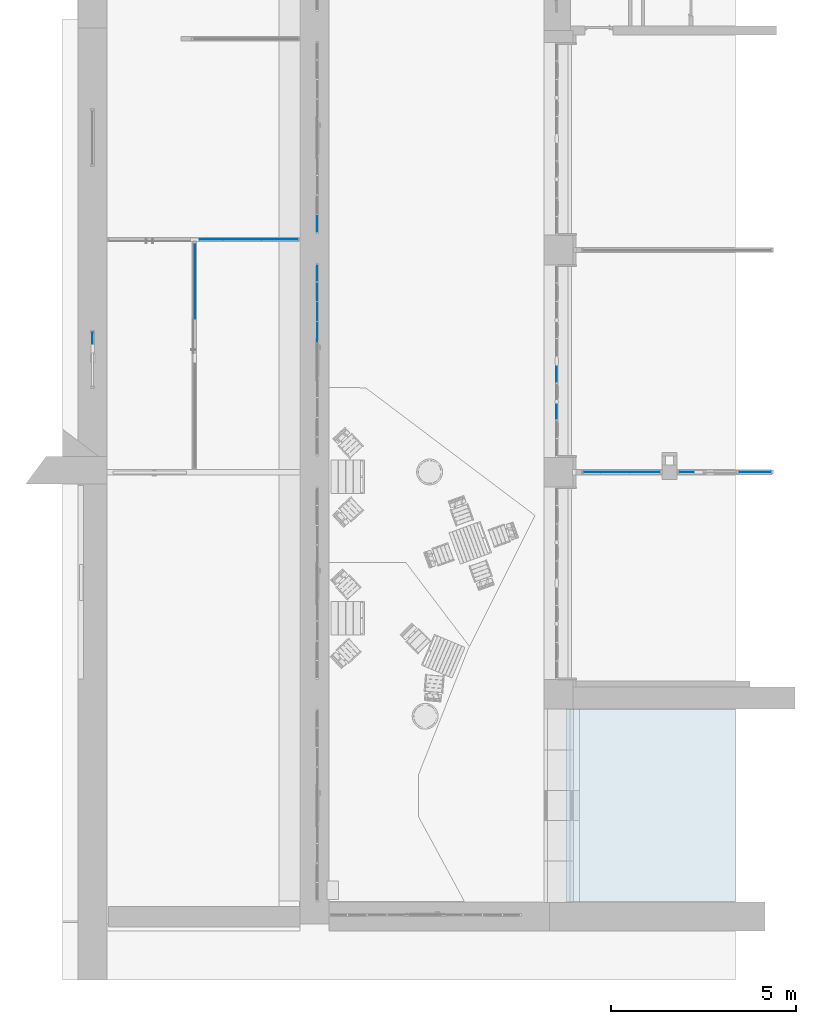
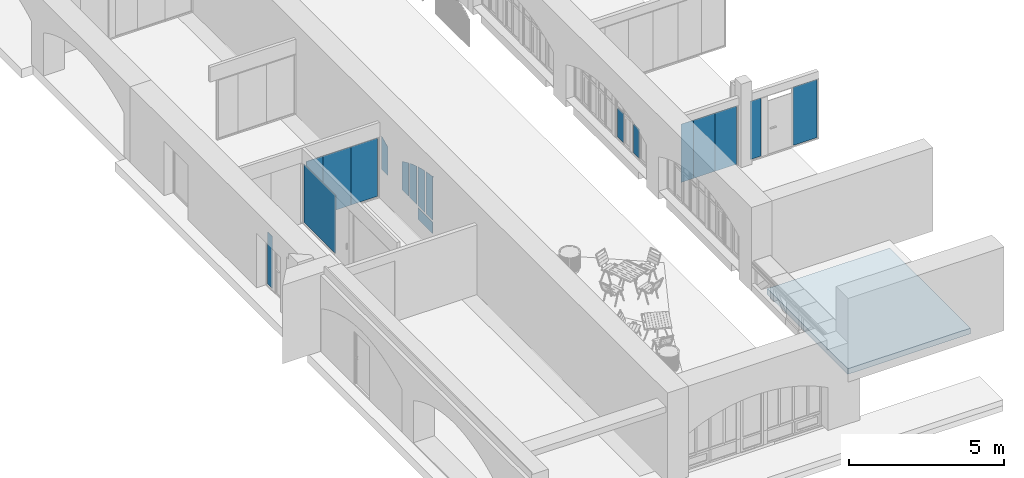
# One storey, part 53 of 88: 18 plates, 1 slab, 9 elements without a shape of their own.
"""IFC2X3 building model written with IfcOpenShell, lengths in millimetres."""

from ifc_helpers import new_model, entity, si_unit, converted_unit, derived_unit, direction, frame, frame_2d, origin, origin_2d_with_axis, place, context, subcontext, project, spatial, polyline, circle_curve, parameter, trimmed, segment, composite_curve, rectangle, outline, extrude, face_set, surface_model, source, transform, mapped, material, layer, layer_set, type_object, type_shapes, element, aggregate, save


model = new_model("IFC2X3")

# Units and contexts
model_context = context("Model", 3, precision=0.01, world=origin(), true_north=direction((6.123031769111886e-17, 1.0)))
body_context = subcontext(model_context, "Body", "Model", "MODEL_VIEW")
ifc_project = project(units=[si_unit("LENGTHUNIT", "METRE", prefix="MILLI"), si_unit("AREAUNIT", "SQUARE_METRE"), si_unit("VOLUMEUNIT", "CUBIC_METRE"), converted_unit("PLANEANGLEUNIT", "DEGREE", entity("IfcPlaneAngleMeasure", 0.017453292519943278), si_unit("PLANEANGLEUNIT", "RADIAN"), dimensions=[0, 0, 0, 0, 0, 0, 0]), si_unit("MASSUNIT", "GRAM", prefix="KILO"), derived_unit("MASSDENSITYUNIT", [(si_unit("MASSUNIT", "GRAM", prefix="KILO"), 1), (si_unit("LENGTHUNIT", "METRE"), -3)]), derived_unit("IONCONCENTRATIONUNIT", [(si_unit("MASSUNIT", "GRAM", prefix="KILO"), 1), (si_unit("LENGTHUNIT", "METRE"), -3)]), derived_unit("MOMENTOFINERTIAUNIT", [(si_unit("LENGTHUNIT", "METRE"), 4)]), si_unit("TIMEUNIT", "SECOND"), si_unit("FREQUENCYUNIT", "HERTZ"), si_unit("THERMODYNAMICTEMPERATUREUNIT", "DEGREE_CELSIUS"), derived_unit("THERMALTRANSMITTANCEUNIT", [(si_unit("MASSUNIT", "GRAM", prefix="KILO"), 1), (si_unit("THERMODYNAMICTEMPERATUREUNIT", "KELVIN"), -1), (si_unit("TIMEUNIT", "SECOND"), -3)]), derived_unit("THERMALCONDUCTANCEUNIT", [(si_unit("MASSUNIT", "GRAM", prefix="KILO"), 1), (si_unit("THERMODYNAMICTEMPERATUREUNIT", "KELVIN"), -1), (si_unit("TIMEUNIT", "SECOND"), -3), (si_unit("LENGTHUNIT", "METRE"), 1)]), derived_unit("VOLUMETRICFLOWRATEUNIT", [(si_unit("LENGTHUNIT", "METRE", prefix="DECI"), 3), (si_unit("TIMEUNIT", "SECOND"), -1)]), derived_unit("MASSFLOWRATEUNIT", [(si_unit("MASSUNIT", "GRAM", prefix="KILO"), 1), (si_unit("TIMEUNIT", "SECOND"), -1)]), derived_unit("ROTATIONALFREQUENCYUNIT", [(si_unit("TIMEUNIT", "SECOND"), -1)]), si_unit("ELECTRICCURRENTUNIT", "AMPERE"), si_unit("ELECTRICVOLTAGEUNIT", "VOLT"), si_unit("POWERUNIT", "WATT"), si_unit("FORCEUNIT", "NEWTON", prefix="KILO"), si_unit("ILLUMINANCEUNIT", "LUX"), si_unit("LUMINOUSFLUXUNIT", "LUMEN"), si_unit("LUMINOUSINTENSITYUNIT", "CANDELA"), si_unit("ENERGYUNIT", "JOULE"), derived_unit("USERDEFINED", [(si_unit("MASSUNIT", "GRAM", prefix="KILO"), -1), (si_unit("LENGTHUNIT", "METRE"), -2), (si_unit("TIMEUNIT", "SECOND"), 3), (si_unit("LUMINOUSFLUXUNIT", "LUMEN"), 1)]), derived_unit("USERDEFINED", [(si_unit("MASSUNIT", "GRAM", prefix="KILO"), 1), (si_unit("TIMEUNIT", "SECOND"), -3), (si_unit("LENGTHUNIT", "METRE"), 3), (si_unit("ELECTRICCURRENTUNIT", "AMPERE"), -2)]), derived_unit("SOUNDPOWERUNIT", [(si_unit("MASSUNIT", "GRAM", prefix="KILO"), 1), (si_unit("TIMEUNIT", "SECOND"), -3), (si_unit("LENGTHUNIT", "METRE"), 2)]), derived_unit("SOUNDPRESSUREUNIT", [(si_unit("MASSUNIT", "GRAM", prefix="KILO"), 1), (si_unit("LENGTHUNIT", "METRE"), -1), (si_unit("TIMEUNIT", "SECOND"), -2)]), derived_unit("LINEARVELOCITYUNIT", [(si_unit("LENGTHUNIT", "METRE"), 1), (si_unit("TIMEUNIT", "SECOND"), -1)]), si_unit("PRESSUREUNIT", "PASCAL"), derived_unit("USERDEFINED", [(si_unit("MASSUNIT", "GRAM", prefix="KILO"), 1), (si_unit("LENGTHUNIT", "METRE"), -2), (si_unit("TIMEUNIT", "SECOND"), -2)]), derived_unit("LINEARFORCEUNIT", [(si_unit("MASSUNIT", "GRAM", prefix="KILO"), 1), (si_unit("TIMEUNIT", "SECOND"), -2)]), derived_unit("PLANARFORCEUNIT", [(si_unit("MASSUNIT", "GRAM", prefix="KILO"), 1), (si_unit("LENGTHUNIT", "METRE"), -1), (si_unit("TIMEUNIT", "SECOND"), -2)]), derived_unit("SPECIFICHEATCAPACITYUNIT", [(si_unit("THERMODYNAMICTEMPERATUREUNIT", "KELVIN"), -1), (si_unit("LENGTHUNIT", "METRE"), 2), (si_unit("TIMEUNIT", "SECOND"), -2)]), derived_unit("HEATFLUXDENSITYUNIT", [(si_unit("MASSUNIT", "GRAM", prefix="KILO"), 1), (si_unit("TIMEUNIT", "SECOND"), -3)]), derived_unit("HEATINGVALUEUNIT", [(si_unit("LENGTHUNIT", "METRE"), 2), (si_unit("TIMEUNIT", "SECOND"), -2)]), derived_unit("VAPORPERMEABILITYUNIT", [(si_unit("LENGTHUNIT", "METRE"), -1), (si_unit("TIMEUNIT", "SECOND"), 1)]), derived_unit("DYNAMICVISCOSITYUNIT", [(si_unit("MASSUNIT", "GRAM", prefix="KILO"), 1), (si_unit("TIMEUNIT", "SECOND"), -1), (si_unit("LENGTHUNIT", "METRE"), -1)]), derived_unit("THERMALEXPANSIONCOEFFICIENTUNIT", [(si_unit("THERMODYNAMICTEMPERATUREUNIT", "KELVIN"), -1)]), derived_unit("MODULUSOFELASTICITYUNIT", [(si_unit("MASSUNIT", "GRAM", prefix="KILO"), 1), (si_unit("LENGTHUNIT", "METRE"), -1), (si_unit("TIMEUNIT", "SECOND"), -2)]), derived_unit("ISOTHERMALMOISTURECAPACITYUNIT", [(si_unit("MASSUNIT", "GRAM", prefix="KILO"), -1), (si_unit("LENGTHUNIT", "METRE"), 3)]), derived_unit("MOISTUREDIFFUSIVITYUNIT", [(si_unit("TIMEUNIT", "SECOND"), -1), (si_unit("LENGTHUNIT", "METRE"), 2)]), derived_unit("MASSPERLENGTHUNIT", [(si_unit("MASSUNIT", "GRAM", prefix="KILO"), 1), (si_unit("LENGTHUNIT", "METRE"), -1)]), derived_unit("THERMALRESISTANCEUNIT", [(si_unit("MASSUNIT", "GRAM", prefix="KILO"), -1), (si_unit("TIMEUNIT", "SECOND"), 3), (si_unit("THERMODYNAMICTEMPERATUREUNIT", "KELVIN"), 1)]), derived_unit("ACCELERATIONUNIT", [(si_unit("LENGTHUNIT", "METRE"), 1), (si_unit("TIMEUNIT", "SECOND"), -2)]), derived_unit("ANGULARVELOCITYUNIT", [(si_unit("TIMEUNIT", "SECOND"), -1), (si_unit("PLANEANGLEUNIT", "RADIAN"), 1)]), derived_unit("LINEARSTIFFNESSUNIT", [(si_unit("MASSUNIT", "GRAM", prefix="KILO"), 1), (si_unit("TIMEUNIT", "SECOND"), -2)]), derived_unit("WARPINGCONSTANTUNIT", [(si_unit("LENGTHUNIT", "METRE"), 6)]), derived_unit("LINEARMOMENTUNIT", [(si_unit("MASSUNIT", "GRAM", prefix="KILO"), 1), (si_unit("LENGTHUNIT", "METRE"), 1), (si_unit("TIMEUNIT", "SECOND"), -2)]), derived_unit("TORQUEUNIT", [(si_unit("MASSUNIT", "GRAM", prefix="KILO"), 1), (si_unit("LENGTHUNIT", "METRE"), 2), (si_unit("TIMEUNIT", "SECOND"), -2)])], contexts=[model_context])

# Site, building, storey
site_placement = place(None, origin())
site = spatial("IfcSite", under=ifc_project, at=site_placement, Name="Default", CompositionType="ELEMENT")
building_placement = place(site_placement, origin())
building = spatial("IfcBuilding", under=site, at=building_placement, Name="Eesti Rahvusraamatukogu hoone renoveerimise projekteerimistööd", CompositionType="ELEMENT")
storey_placement = place(building_placement, origin())
storey = spatial("IfcBuildingStorey", under=building, at=storey_placement, Name="1. korrus", CompositionType="ELEMENT", Elevation=0.0)

# Roof, slab
ifc_material_1 = material(Name="ol. olev materjal")
ifc_layer = layer(ifc_material_1, 220.0)
ifc_layer_set = layer_set([ifc_layer], Name="Basic Roof:ol. olev - 220mm")
roof_placement = place(storey_placement, frame((-36190.17342295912, 780.0, 1330.0)))
roof = element("IfcRoof", 1, at=roof_placement, inside=storey, material=ifc_layer_set, Name="Basic Roof:ol. olev - 220mm", ObjectType="Basic Roof:ol. olev - 220mm", ShapeType="NOTDEFINED")
slab_type = type_object("IfcSlabType", Name="Basic Roof:ol. olev - 220mm", PredefinedType="ROOF")
slab_placement = place(storey_placement, frame((-36190.17342295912, 780.0, 1330.0)))
slab = element("IfcSlab", 2, at=slab_placement, type_object=slab_type, Name="Basic Roof:ol. olev - 220mm:1", ObjectType="Basic Roof:ol. olev - 220mm", PredefinedType="ROOF", context=body_context, shape_type="SweptSolid", body=[
    extrude(rectangle(XDim=5219.999999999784, YDim=4580.354991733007, at=frame_2d((-521.999999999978, 442.0008145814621), x_axis=(1.0, 0.0))), frame((1848.1766812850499, 2088.0, 0.0), z_axis=(0.0, 0.0, 1.0), x_axis=(0.0, -1.0, 0.0)), (0.0, 0.0, 1.0), 220.00000000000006),
])
aggregate(roof, [slab])

# Curtain wall, plates
curtain_wall_type_1 = type_object("IfcCurtainWallType", Name="Curtain Wall:VLS Klaasvahesein profiilita 38db", PredefinedType="NOTDEFINED")
curtain_wall_1_placement = place(storey_placement, origin())
curtain_wall_1 = element("IfcCurtainWall", 3, at=curtain_wall_1_placement, inside=storey, type_object=curtain_wall_type_1, Name="Curtain Wall:VLS Klaasvahesein profiilita 38db", ObjectType="Curtain Wall:VLS Klaasvahesein profiilita 38db")
ifc_material_2 = material(Name="EST. Klaas. 1x. E-korpus")
plate_type_1 = type_object("IfcPlateType", Name="System Panel:VLS Klaas KAR/LAM 6+1+6", PredefinedType="CURTAIN_PANEL", material=ifc_material_2)
shared_shape_1 = source(origin(), body_context, "Body", "SweptSolid", [
    extrude(rectangle(XDim=13.000000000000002, YDim=992.0000001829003, at=origin_2d_with_axis()), frame((0.0, 0.0, 0.0), z_axis=(0.0, 0.0, 1.0), x_axis=(0.0, 1.0, 0.0)), (0.0, 0.0, 1.0), 2300.0),
])
type_shapes(plate_type_1, [shared_shape_1])
plate_1_placement = place(curtain_wall_1_placement, frame((-43916.000000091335, 18670.0, 50.0), z_axis=(0.0, 0.0, 1.0), x_axis=(-1.0, 0.0, 0.0)))
plate_1 = element("IfcPlate", 4, at=plate_1_placement, type_object=plate_type_1, material=ifc_material_2, Name="System Panel:VLS Klaas KAR/LAM 6+1+6", ObjectType="System Panel:VLS Klaas KAR/LAM 6+1+6", context=body_context, shape_type="MappedRepresentation", body=[
    mapped(shared_shape_1, transform((0.0, 0.0, 0.0), scale=1.0)),
])
plate_type_2 = type_object("IfcPlateType", Name="System Panel:VLS Klaas KAR/LAM 6+1+6", PredefinedType="CURTAIN_PANEL", material=ifc_material_2)
shared_shape_2 = source(origin(), body_context, "Body", "SweptSolid", [
    extrude(rectangle(XDim=13.000000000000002, YDim=1041.9999998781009, at=origin_2d_with_axis()), frame((0.0, 0.0, 0.0), z_axis=(0.0, 0.0, 1.0), x_axis=(0.0, 1.0, 0.0)), (0.0, 0.0, 1.0), 2300.0),
])
type_shapes(plate_type_2, [shared_shape_2])
plate_2_placement = place(curtain_wall_1_placement, frame((-44933.000000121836, 18670.0, 50.0), z_axis=(0.0, 0.0, 1.0), x_axis=(-1.0, 0.0, 0.0)))
plate_2 = element("IfcPlate", 5, at=plate_2_placement, type_object=plate_type_2, material=ifc_material_2, Name="System Panel:VLS Klaas KAR/LAM 6+1+6", ObjectType="System Panel:VLS Klaas KAR/LAM 6+1+6", context=body_context, shape_type="MappedRepresentation", body=[
    mapped(shared_shape_2, transform((0.0, 0.0, 0.0), scale=1.0)),
])
plate_type_3 = type_object("IfcPlateType", Name="System Panel:VLS Klaas KAR/LAM 6+1+6", PredefinedType="CURTAIN_PANEL", material=ifc_material_2)
shared_shape_3 = source(origin(), body_context, "Body", "SweptSolid", [
    extrude(rectangle(XDim=13.000000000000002, YDim=625.9999999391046, at=origin_2d_with_axis()), frame((0.0, 0.0, 0.0), z_axis=(0.0, 0.0, 1.0), x_axis=(0.0, 1.0, 0.0)), (0.0, 0.0, 1.0), 2300.0),
])
type_shapes(plate_type_3, [shared_shape_3])
plate_3_placement = place(curtain_wall_1_placement, frame((-45767.000000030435, 18670.0, 50.0), z_axis=(0.0, 0.0, 1.0), x_axis=(-1.0, 0.0, 0.0)))
plate_3 = element("IfcPlate", 6, at=plate_3_placement, type_object=plate_type_3, material=ifc_material_2, Name="System Panel:VLS Klaas KAR/LAM 6+1+6", ObjectType="System Panel:VLS Klaas KAR/LAM 6+1+6", context=body_context, shape_type="MappedRepresentation", body=[
    mapped(shared_shape_3, transform((0.0, 0.0, 0.0), scale=1.0)),
])
aggregate(curtain_wall_1, [plate_1, plate_2, plate_3])

# Curtain wall, plate
curtain_wall_2_placement = place(storey_placement, origin())
curtain_wall_2 = element("IfcCurtainWall", 7, at=curtain_wall_2_placement, inside=storey, type_object=curtain_wall_type_1, Name="Curtain Wall:VLS Klaasvahesein profiilita 38db", ObjectType="Curtain Wall:VLS Klaasvahesein profiilita 38db")
plate_type_4 = type_object("IfcPlateType", Name="System Panel:VLS Klaas KAR/LAM 6+1+6", PredefinedType="CURTAIN_PANEL", material=ifc_material_2)
shared_shape_4 = source(origin(), body_context, "Body", "SweptSolid", [
    extrude(rectangle(XDim=13.000000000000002, YDim=2040.9166668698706, at=origin_2d_with_axis()), frame((0.0, 0.0, 0.0), z_axis=(0.0, 0.0, 1.0), x_axis=(0.0, 1.0, 0.0)), (0.0, 0.0, 1.0), 2300.0),
])
type_shapes(plate_type_4, [shared_shape_4])
plate_4_placement = place(curtain_wall_2_placement, frame((-46211.0, 17553.54166656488, 50.0), z_axis=(0.0, 0.0, 1.0), x_axis=(0.0, -1.0, 0.0)))
plate_4 = element("IfcPlate", 8, at=plate_4_placement, type_object=plate_type_4, material=ifc_material_2, Name="System Panel:VLS Klaas KAR/LAM 6+1+6", ObjectType="System Panel:VLS Klaas KAR/LAM 6+1+6", context=body_context, shape_type="MappedRepresentation", body=[
    mapped(shared_shape_4, transform((0.0, 0.0, 0.0), scale=1.0)),
])
aggregate(curtain_wall_2, [plate_4])

# Curtain wall, plates
curtain_wall_type_2 = type_object("IfcCurtainWallType", Name="Curtain Wall:Ak-02", PredefinedType="NOTDEFINED")
curtain_wall_3_placement = place(storey_placement, origin())
curtain_wall_3 = element("IfcCurtainWall", 9, at=curtain_wall_3_placement, inside=storey, type_object=curtain_wall_type_2, Name="Curtain Wall:Ak-02", ObjectType="Curtain Wall:Ak-02")
ifc_material_3 = material(Name="EST. Klaas. 3x. Default")
plate_type_5 = type_object("IfcPlateType", Name="System Panel:Peegelaknad 6-16-4-16-4, paneel", PredefinedType="CURTAIN_PANEL", material=ifc_material_3)
shared_shape_5 = source(origin(), body_context, "Body", "SweptSolid", [
    extrude(rectangle(XDim=10.0, YDim=384.9999999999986, at=origin_2d_with_axis()), frame((0.0, 0.0, 0.0), z_axis=(0.0, 0.0, 1.0), x_axis=(0.0, 1.0, 0.0)), (0.0, 0.0, 1.0), 1150.0000000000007),
])
type_shapes(plate_type_5, [shared_shape_5])
plate_5_placement = place(curtain_wall_3_placement, frame((-36440.0, 14022.499999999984, 2030.0), z_axis=(0.0, 0.0, 1.0), x_axis=(0.0, -1.0, 0.0)))
plate_5 = element("IfcPlate", 10, at=plate_5_placement, type_object=plate_type_5, material=ifc_material_3, Name="System Panel:Peegelaknad 6-16-4-16-4, paneel", ObjectType="System Panel:Peegelaknad 6-16-4-16-4, paneel", context=body_context, shape_type="MappedRepresentation", body=[
    mapped(shared_shape_5, transform((0.0, 0.0, 0.0), scale=1.0)),
])
plate_type_6 = type_object("IfcPlateType", Name="System Panel:Peegelaknad 6-16-4-16-4, paneel", PredefinedType="CURTAIN_PANEL", material=ifc_material_3)
shared_shape_6 = source(origin(), body_context, "Body", "SweptSolid", [
    extrude(rectangle(XDim=10.0, YDim=409.9999999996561, at=origin_2d_with_axis()), frame((0.0, 0.0, 0.0), z_axis=(0.0, 0.0, 1.0), x_axis=(0.0, 1.0, 0.0)), (0.0, 0.0, 1.0), 1150.0000000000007),
])
type_shapes(plate_type_6, [shared_shape_6])
plate_6_placement = place(curtain_wall_3_placement, frame((-36440.0, 15035.0, 2030.0), z_axis=(0.0, 0.0, 1.0), x_axis=(0.0, -1.0, 0.0)))
plate_6 = element("IfcPlate", 11, at=plate_6_placement, type_object=plate_type_6, material=ifc_material_3, Name="System Panel:Peegelaknad 6-16-4-16-4, paneel", ObjectType="System Panel:Peegelaknad 6-16-4-16-4, paneel", context=body_context, shape_type="MappedRepresentation", body=[
    mapped(shared_shape_6, transform((0.0, 0.0, 0.0), scale=1.0)),
])
aggregate(curtain_wall_3, [plate_6, plate_5])

curtain_wall_type_3 = type_object("IfcCurtainWallType", Name="Curtain Wall:Ak-05", PredefinedType="NOTDEFINED")
curtain_wall_4_placement = place(storey_placement, origin())
curtain_wall_4 = element("IfcCurtainWall", 12, at=curtain_wall_4_placement, inside=storey, type_object=curtain_wall_type_3, Name="Curtain Wall:Ak-05", ObjectType="Curtain Wall:Ak-05")
plate_type_7 = type_object("IfcPlateType", Name="System Panel:Peegelaknad 6-16-4-16-4, paneel", PredefinedType="CURTAIN_PANEL", material=ifc_material_3)
shared_shape_7 = source(origin(), body_context, "Body", "SweptSolid", [
    extrude(rectangle(XDim=450.00000000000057, YDim=944.9999999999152, at=frame_2d((0.0, -5.833333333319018), x_axis=(1.0, 0.0))), frame((5.833333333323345, -5.0, 225.0), z_axis=(0.0, 1.0, 0.0), x_axis=(0.0, 0.0, 1.0)), (0.0, 0.0, 1.0), 10.0),
])
type_shapes(plate_type_7, [shared_shape_7])
plate_7_placement = place(curtain_wall_4_placement, frame((-42905.0, 16472.49999999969, 10.0), z_axis=(0.0, 0.0, 1.0), x_axis=(0.0, -1.0, 0.0)))
plate_7 = element("IfcPlate", 13, at=plate_7_placement, type_object=plate_type_7, material=ifc_material_3, Name="System Panel:Peegelaknad 6-16-4-16-4, paneel", ObjectType="System Panel:Peegelaknad 6-16-4-16-4, paneel", context=body_context, shape_type="MappedRepresentation", body=[
    mapped(shared_shape_7, transform((0.0, 0.0, 0.0), scale=1.0)),
])
plate_type_8 = type_object("IfcPlateType", Name="System Panel:Peegelaknad 6-16-4-16-4, paneel", PredefinedType="CURTAIN_PANEL", material=ifc_material_3)
shared_shape_8 = source(origin(), body_context, "Body", "SweptSolid", [
    extrude(outline(composite_curve([segment(polyline([(-610.3301409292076, -205.0), (513.3133718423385, -205.0)]), True, "CONTINUOUS"), segment(trimmed(circle_curve(frame_2d((-4323.610707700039, 2335.0), x_axis=(0.9256428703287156, -0.37839830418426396)), 5463.280566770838), [parameter(354.5293230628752)], [parameter(359.2877436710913)], True, "PARAMETER"), True, "CONTINUOUS"), segment(polyline([(707.3469100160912, 205.0), (-610.3301409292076, 205.0)]), True, "CONTINUOUS"), segment(polyline([(-610.3301409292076, 205.0), (-610.3301409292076, -205.0)]), True, "CONTINUOUS")], self_intersect=False)), frame((0.0, -5.0, 610.3301409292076), z_axis=(0.0, 1.0, 0.0), x_axis=(0.0, 0.0, 1.0)), (0.0, 0.0, 1.0), 10.0),
])
type_shapes(plate_type_8, [shared_shape_8])
plate_8_placement = place(curtain_wall_4_placement, frame((-42905.0, 17760.0, 540.0), z_axis=(0.0, 0.0, 1.0), x_axis=(0.0, -1.0, 0.0)))
plate_8 = element("IfcPlate", 14, at=plate_8_placement, type_object=plate_type_8, material=ifc_material_3, Name="System Panel:Peegelaknad 6-16-4-16-4, paneel", ObjectType="System Panel:Peegelaknad 6-16-4-16-4, paneel", context=body_context, shape_type="MappedRepresentation", body=[
    mapped(shared_shape_8, transform((0.0, 0.0, 0.0), scale=1.0)),
])
plate_type_9 = type_object("IfcPlateType", Name="System Panel:Peegelaknad 6-16-4-16-4, paneel", PredefinedType="CURTAIN_PANEL", material=ifc_material_3)
shared_shape_9 = source(origin(), body_context, "Body", "SweptSolid", [
    extrude(outline(composite_curve([segment(polyline([(-715.3148161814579, -225.0), (635.487411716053, -225.0)]), True, "CONTINUOUS"), segment(trimmed(circle_curve(frame_2d((-4428.595382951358, 1825.0), x_axis=(0.9592847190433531, -0.2824408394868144)), 5463.280566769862), [parameter(354.3672571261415)], [parameter(359.3764184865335)], True, "PARAMETER"), True, "CONTINUOUS"), segment(polyline([(795.1422206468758, 225.0), (-715.3148161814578, 225.0)]), True, "CONTINUOUS"), segment(polyline([(-715.3148161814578, 225.0), (-715.3148161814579, -225.0)]), True, "CONTINUOUS")], self_intersect=False)), frame((0.0, -5.0, 715.3148161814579), z_axis=(0.0, 1.0, 0.0), x_axis=(0.0, 0.0, 1.0)), (0.0, 0.0, 1.0), 10.0),
])
type_shapes(plate_type_9, [shared_shape_9])
plate_9_placement = place(curtain_wall_4_placement, frame((-42905.0, 17250.0, 540.0), z_axis=(0.0, 0.0, 1.0), x_axis=(0.0, -1.0, 0.0)))
plate_9 = element("IfcPlate", 15, at=plate_9_placement, type_object=plate_type_9, material=ifc_material_3, Name="System Panel:Peegelaknad 6-16-4-16-4, paneel", ObjectType="System Panel:Peegelaknad 6-16-4-16-4, paneel", context=body_context, shape_type="MappedRepresentation", body=[
    mapped(shared_shape_9, transform((0.0, 0.0, 0.0), scale=1.0)),
])
plate_type_10 = type_object("IfcPlateType", Name="System Panel:Peegelaknad 6-16-4-16-4, paneel", PredefinedType="CURTAIN_PANEL", material=ifc_material_3)
shared_shape_10 = source(origin(), body_context, "Body", "SweptSolid", [
    extrude(outline(composite_curve([segment(polyline([(-794.6219170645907, -225.0), (739.6716748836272, -225.0)]), True, "CONTINUOUS"), segment(trimmed(circle_curve(frame_2d((-4507.902483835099, 1295.0), x_axis=(0.9824581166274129, -0.18648337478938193)), 5463.2805667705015), [parameter(354.5935648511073)], [parameter(359.45306970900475)], True, "PARAMETER"), True, "CONTINUOUS"), segment(polyline([(849.5721592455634, 225.0), (-794.6219170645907, 225.0)]), True, "CONTINUOUS"), segment(polyline([(-794.6219170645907, 225.0), (-794.6219170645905, -225.0)]), True, "CONTINUOUS")], self_intersect=False)), frame((0.0, -5.0, 794.6219170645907), z_axis=(0.0, 1.0, 0.0), x_axis=(0.0, 0.0, 1.0)), (0.0, 0.0, 1.0), 10.0),
])
type_shapes(plate_type_10, [shared_shape_10])
plate_10_placement = place(curtain_wall_4_placement, frame((-42905.0, 16720.0, 540.0), z_axis=(0.0, 0.0, 1.0), x_axis=(0.0, -1.0, 0.0)))
plate_10 = element("IfcPlate", 16, at=plate_10_placement, type_object=plate_type_10, material=ifc_material_3, Name="System Panel:Peegelaknad 6-16-4-16-4, paneel", ObjectType="System Panel:Peegelaknad 6-16-4-16-4, paneel", context=body_context, shape_type="MappedRepresentation", body=[
    mapped(shared_shape_10, transform((0.0, 0.0, 0.0), scale=1.0)),
])
plate_type_11 = type_object("IfcPlateType", Name="System Panel:Peegelaknad 6-16-4-16-4, paneel", PredefinedType="CURTAIN_PANEL", material=ifc_material_3)
shared_shape_11 = source(origin(), body_context, "Body", "SurfaceModel", [
    surface_model("IfcFaceBasedSurfaceModel", [(-245.0, -5.0, 0.0), (170.0, -5.0, 0.0), (170.0, -5.0, 1750.0), (245.0, -5.0, 1750.0), (245.0, -5.0, 1727.0718621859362), (93.20177957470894, -5.0, 1710.979164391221), (-58.08758672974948, -5.0, 1690.6517865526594), (-151.67863011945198, -5.0, 1675.9125069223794), (-245.0, -5.0, 1659.5524430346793), (-245.0, 5.0, 0.0), (-245.0, 5.0, 1659.5524430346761), (-151.67863011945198, 5.0, 1675.9125069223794), (-58.08758672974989, 5.0, 1690.6517865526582), (93.20177957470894, 5.0, 1710.979164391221), (245.0, 5.0, 1727.071862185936), (245.0, 5.0, 1750.0), (170.0, 5.0, 1750.0), (170.0, 5.0, 0.0)], [face_set([[[0, 1, 2, 3, 4, 5, 6, 7, 8]], [[9, 10, 11, 12, 13, 14, 15, 16, 17]], [[1, 0, 9, 17]], [[2, 1, 17, 16]], [[3, 15, 16, 2]], [[4, 14, 15, 3]], [[5, 4, 14, 13]], [[12, 6, 5, 13]], [[7, 6, 12, 11]], [[10, 8, 7, 11]], [[0, 8, 10, 9]]])]),
])
type_shapes(plate_type_11, [shared_shape_11])
plate_11_placement = place(curtain_wall_4_placement, frame((-42905.0, 16170.0, 540.0), z_axis=(0.0, 0.0, 1.0), x_axis=(0.0, -1.0, 0.0)))
plate_11 = element("IfcPlate", 17, at=plate_11_placement, type_object=plate_type_11, material=ifc_material_3, Name="System Panel:Peegelaknad 6-16-4-16-4, paneel", ObjectType="System Panel:Peegelaknad 6-16-4-16-4, paneel", context=body_context, shape_type="MappedRepresentation", body=[
    mapped(shared_shape_11, transform((0.0, 0.0, 0.0), scale=1.0)),
])
aggregate(curtain_wall_4, [plate_7, plate_8, plate_9, plate_10, plate_11])

# Curtain wall, plate
curtain_wall_5_placement = place(storey_placement, origin())
curtain_wall_5 = element("IfcCurtainWall", 18, at=curtain_wall_5_placement, inside=storey, type_object=curtain_wall_type_3, Name="Curtain Wall:Ak-05", ObjectType="Curtain Wall:Ak-05")
plate_type_12 = type_object("IfcPlateType", Name="System Panel:Peegelaknad 6-16-4-16-4, paneel", PredefinedType="CURTAIN_PANEL", material=ifc_material_3)
shared_shape_12 = source(origin(), body_context, "Body", "SweptSolid", [
    extrude(outline(composite_curve([segment(polyline([(-610.3301409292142, 205.0), (-610.3301409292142, -205.0)]), True, "CONTINUOUS"), segment(polyline([(-610.3301409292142, -205.0), (513.3133718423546, -205.0)]), True, "CONTINUOUS"), segment(trimmed(circle_curve(frame_2d((-4323.610707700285, 2335.0), x_axis=(0.8822747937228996, -0.4707347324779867)), 5463.280566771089), [parameter(0.37681807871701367)], [parameter(5.135238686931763)], True, "PARAMETER"), True, "CONTINUOUS"), segment(polyline([(707.3469100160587, 205.0), (-610.3301409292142, 205.0)]), True, "CONTINUOUS")], self_intersect=False)), frame((0.0, -5.0, 610.3301409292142), z_axis=(0.0, -1.0, 0.0), x_axis=(0.0, 0.0, 1.0)), (0.0, 0.0, -1.0), 10.0),
])
type_shapes(plate_type_12, [shared_shape_12])
plate_12_placement = place(curtain_wall_5_placement, frame((-42905.0, 19090.0, 540.0), z_axis=(0.0, 0.0, 1.0), x_axis=(0.0, -1.0, 0.0)))
plate_12 = element("IfcPlate", 19, at=plate_12_placement, type_object=plate_type_12, material=ifc_material_3, Name="System Panel:Peegelaknad 6-16-4-16-4, paneel", ObjectType="System Panel:Peegelaknad 6-16-4-16-4, paneel", context=body_context, shape_type="MappedRepresentation", body=[
    mapped(shared_shape_12, transform((0.0, 0.0, 0.0), scale=1.0)),
])
aggregate(curtain_wall_5, [plate_12])

curtain_wall_6_placement = place(storey_placement, origin())
curtain_wall_6 = element("IfcCurtainWall", 20, at=curtain_wall_6_placement, inside=storey, type_object=curtain_wall_type_1, Name="Curtain Wall:VLS Klaasvahesein profiilita 38db", ObjectType="Curtain Wall:VLS Klaasvahesein profiilita 38db")
plate_type_13 = type_object("IfcPlateType", Name="System Panel:VLS Klaas KAR/LAM 6+1+6", PredefinedType="CURTAIN_PANEL", material=ifc_material_2)
shared_shape_13 = source(origin(), body_context, "Body", "SweptSolid", [
    extrude(rectangle(XDim=13.000000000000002, YDim=300.0000000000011, at=origin_2d_with_axis()), frame((0.0, 0.0, 0.0), z_axis=(0.0, 0.0, 1.0), x_axis=(0.0, 1.0, 0.0)), (0.0, 0.0, 1.0), 2050.0),
])
type_shapes(plate_type_13, [shared_shape_13])
plate_13_placement = place(curtain_wall_6_placement, frame((-48970.0, 16005.0, 50.0), z_axis=(0.0, 0.0, 1.0), x_axis=(0.0, -1.0, 0.0)))
plate_13 = element("IfcPlate", 21, at=plate_13_placement, type_object=plate_type_13, material=ifc_material_2, Name="System Panel:VLS Klaas KAR/LAM 6+1+6", ObjectType="System Panel:VLS Klaas KAR/LAM 6+1+6", context=body_context, shape_type="MappedRepresentation", body=[
    mapped(shared_shape_13, transform((0.0, 0.0, 0.0), scale=1.0)),
])
aggregate(curtain_wall_6, [plate_13])

# Curtain wall, plates
curtain_wall_7_placement = place(storey_placement, origin())
curtain_wall_7 = element("IfcCurtainWall", 22, at=curtain_wall_7_placement, inside=storey, type_object=curtain_wall_type_1, Name="Curtain Wall:VLS Klaasvahesein profiilita 38db", ObjectType="Curtain Wall:VLS Klaasvahesein profiilita 38db")
plate_type_14 = type_object("IfcPlateType", Name="System Panel:VLS Klaas KAR/LAM 6+1+6", PredefinedType="CURTAIN_PANEL", material=ifc_material_2)
shared_shape_14 = source(origin(), body_context, "Body", "SweptSolid", [
    extrude(rectangle(XDim=13.000000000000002, YDim=815.5000000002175, at=origin_2d_with_axis()), frame((0.0, 0.0, 0.0), z_axis=(0.0, 0.0, 1.0), x_axis=(0.0, 1.0, 0.0)), (0.0, 0.0, 1.0), 2300.0),
])
type_shapes(plate_type_14, [shared_shape_14])
plate_14_placement = place(curtain_wall_7_placement, frame((-34047.74999999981, 12390.0, 1700.0), z_axis=(0.0, 0.0, 1.0), x_axis=(-1.0, 0.0, 0.0)))
plate_14 = element("IfcPlate", 23, at=plate_14_placement, type_object=plate_type_14, material=ifc_material_2, Name="System Panel:VLS Klaas KAR/LAM 6+1+6", ObjectType="System Panel:VLS Klaas KAR/LAM 6+1+6", context=body_context, shape_type="MappedRepresentation", body=[
    mapped(shared_shape_14, transform((0.0, 0.0, 0.0), scale=1.0)),
])
plate_type_15 = type_object("IfcPlateType", Name="System Panel:VLS Klaas KAR/LAM 6+1+6", PredefinedType="CURTAIN_PANEL", material=ifc_material_2)
shared_shape_15 = source(origin(), body_context, "Body", "SweptSolid", [
    extrude(rectangle(XDim=13.000000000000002, YDim=800.0000000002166, at=origin_2d_with_axis()), frame((0.0, 0.0, 0.0), z_axis=(0.0, 0.0, 1.0), x_axis=(0.0, 1.0, 0.0)), (0.0, 0.0, 1.0), 2300.0),
])
type_shapes(plate_type_15, [shared_shape_15])
plate_15_placement = place(curtain_wall_7_placement, frame((-34855.50000000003, 12390.0, 1700.0), z_axis=(0.0, 0.0, 1.0), x_axis=(-1.0, 0.0, 0.0)))
plate_15 = element("IfcPlate", 24, at=plate_15_placement, type_object=plate_type_15, material=ifc_material_2, Name="System Panel:VLS Klaas KAR/LAM 6+1+6", ObjectType="System Panel:VLS Klaas KAR/LAM 6+1+6", context=body_context, shape_type="MappedRepresentation", body=[
    mapped(shared_shape_15, transform((0.0, 0.0, 0.0), scale=1.0)),
])
plate_type_16 = type_object("IfcPlateType", Name="System Panel:VLS Klaas KAR/LAM 6+1+6", PredefinedType="CURTAIN_PANEL", material=ifc_material_2)
shared_shape_16 = source(origin(), body_context, "Body", "SweptSolid", [
    extrude(rectangle(XDim=13.000000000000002, YDim=459.9999999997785, at=origin_2d_with_axis()), frame((0.0, 0.0, 0.0), z_axis=(0.0, 0.0, 1.0), x_axis=(0.0, 1.0, 0.0)), (0.0, 0.0, 1.0), 2300.0),
])
type_shapes(plate_type_16, [shared_shape_16])
plate_16_placement = place(curtain_wall_7_placement, frame((-35485.50000000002, 12390.0, 1700.0), z_axis=(0.0, 0.0, 1.0), x_axis=(-1.0, 0.0, 0.0)))
plate_16 = element("IfcPlate", 25, at=plate_16_placement, type_object=plate_type_16, material=ifc_material_2, Name="System Panel:VLS Klaas KAR/LAM 6+1+6", ObjectType="System Panel:VLS Klaas KAR/LAM 6+1+6", context=body_context, shape_type="MappedRepresentation", body=[
    mapped(shared_shape_16, transform((0.0, 0.0, 0.0), scale=1.0)),
])
aggregate(curtain_wall_7, [plate_14, plate_15, plate_16])

curtain_wall_8_placement = place(storey_placement, origin())
curtain_wall_8 = element("IfcCurtainWall", 26, at=curtain_wall_8_placement, inside=storey, type_object=curtain_wall_type_1, Name="Curtain Wall:VLS Klaasvahesein profiilita 38db", ObjectType="Curtain Wall:VLS Klaasvahesein profiilita 38db")
plate_type_17 = type_object("IfcPlateType", Name="System Panel:VLS Klaas KAR/LAM 6+1+6", PredefinedType="CURTAIN_PANEL", material=ifc_material_2)
shared_shape_17 = source(origin(), body_context, "Body", "SweptSolid", [
    extrude(rectangle(XDim=13.000000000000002, YDim=399.9999999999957, at=origin_2d_with_axis()), frame((0.0, 0.0, 0.0), z_axis=(0.0, 0.0, 1.0), x_axis=(0.0, 1.0, 0.0)), (0.0, 0.0, 1.0), 2300.0),
])
type_shapes(plate_type_17, [shared_shape_17])
plate_17_placement = place(curtain_wall_8_placement, frame((-32940.0, 12390.0, 1700.0)))
plate_17 = element("IfcPlate", 27, at=plate_17_placement, type_object=plate_type_17, material=ifc_material_2, Name="System Panel:VLS Klaas KAR/LAM 6+1+6", ObjectType="System Panel:VLS Klaas KAR/LAM 6+1+6", context=body_context, shape_type="MappedRepresentation", body=[
    mapped(shared_shape_17, transform((0.0, 0.0, 0.0), scale=1.0)),
])
plate_type_18 = type_object("IfcPlateType", Name="System Panel:VLS Klaas KAR/LAM 6+1+6", PredefinedType="CURTAIN_PANEL", material=ifc_material_2)
shared_shape_18 = source(origin(), body_context, "Body", "SweptSolid", [
    extrude(rectangle(XDim=13.000000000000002, YDim=900.0000000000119, at=origin_2d_with_axis()), frame((0.0, 0.0, 0.0), z_axis=(0.0, 0.0, 1.0), x_axis=(0.0, 1.0, 0.0)), (0.0, 0.0, 1.0), 2300.0),
])
type_shapes(plate_type_18, [shared_shape_18])
plate_18_placement = place(curtain_wall_8_placement, frame((-31090.0, 12390.0, 1700.0)))
plate_18 = element("IfcPlate", 28, at=plate_18_placement, type_object=plate_type_18, material=ifc_material_2, Name="System Panel:VLS Klaas KAR/LAM 6+1+6", ObjectType="System Panel:VLS Klaas KAR/LAM 6+1+6", context=body_context, shape_type="MappedRepresentation", body=[
    mapped(shared_shape_18, transform((0.0, 0.0, 0.0), scale=1.0)),
])
aggregate(curtain_wall_8, [plate_17, plate_18])

save(model, "model.ifc")
